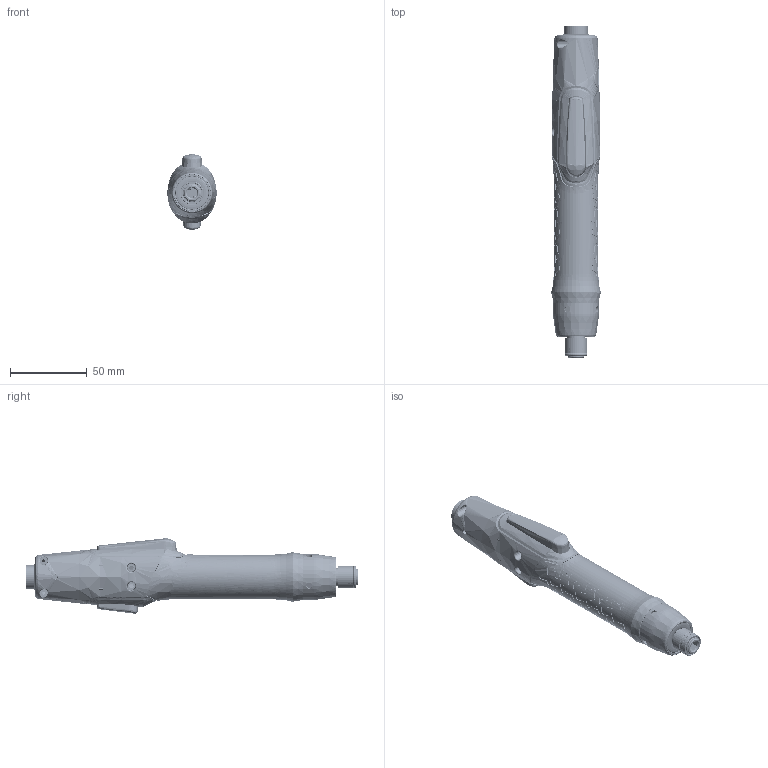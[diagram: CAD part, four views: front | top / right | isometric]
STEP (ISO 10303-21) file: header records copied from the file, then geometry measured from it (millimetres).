
FILE_DESCRIPTION (( 'STEP AP214' ), '1' );
FILE_NAME ('IR-AIS-S(L)-20241029.STEP', '2025-04-10T00:48:24', ( '' ), ( '' ), 'SwSTEP 2.0', 'SolidWorks 2023', '' );
FILE_SCHEMA (( 'AUTOMOTIVE_DESIGN' ));
Length unit declared in the file: millimetre
Products named in the file (40): 小型杠杆式LED模块; _22电机_与量能重载型减速机适配：轴长10，不带扁位; AIS-S(L)-20241026版; R-Rubber Cover-20241029; Copper sleever-20241029; P6P017-Forward Button-20241029; L-002 灯座_LA-002 内壳; P7L392-LOGO-20241029; L-003 外壳A_L-003 外壳A; PCBA-7-V2; KM-3P插头-20240914; Hall Sensor Switch -V4; P6P018-Reverse Button-20241029; X3-013 轴帽S_X3-013 轴帽X; circlips for holes--type a gb_GB_CONNECTING_PIECE_RING_RRH 21; 接地铜片AA_22; X3低阻抗电刷-20240910版; P6R007-Fixed Ring-20241029; P6Z066-IR-Upper Housing_L-20241029; 钢珠2.9_3.1; hexagon socket head cap screws gb_GB_FASTENER_SCREWS_HSHCS M2.5X6-N; LED灯灯盘3.0版-20241014; P22减速机_适配鸣志电机-速比1_12.76-1_16-长度26.4; AIS-S(L)-20241026版(2); N3-002 连接轴_六边型17.6-20241011; P22减速机+_22电机组件_量能重载速比22.1-长度33+鸣志电机; DS-002 J法兰L_DS-002 J法兰L; 轴帽弹簧0.8X11.7X10_0.8x11.7x5x3x15; LED灯盘组件-20241014; 12X1轴用压扁钢丝挡圈_12x1; Magnet; N3连接轴组件-20240922_电流枪-减速机; P6Z066-IR-Lower Housing_R-20241029; L-001 灯罩_2; L-Rubber Cover-20241029; IR-AIS-S(L)-20241029; cross recessed small pan head screws gb_GB_CROSS_SCREWS_TYPE3 M2X4-4-N; N3-003 护套-20241017; 6801 ZZ_6801ZZ; C环1X11.2_11.6
Assembly tree (51 placements, depth 6):
  IR-AIS-S(L)-20241029
    AIS-S(L)-20241026版
      AIS-S(L)-20241026版(2)
        P22减速机+_22电机组件_量能重载速比22.1-长度33+鸣志电机
          P22减速机_适配鸣志电机-速比1_12.76-1_16-长度26.4
          _22电机_与量能重载型减速机适配：轴长10，不带扁位
        N3连接轴组件-20240922_电流枪-减速机
          N3-002 连接轴_六边型17.6-20241011
          6801 ZZ_6801ZZ  x2
          C环1X11.2_11.6
          钢珠2.9_3.1  x2
          轴帽弹簧0.8X11.7X10_0.8x11.7x5x3x15
          X3-013 轴帽S_X3-013 轴帽X
          12X1轴用压扁钢丝挡圈_12x1
        小型杠杆式LED模块
          LED灯盘组件-20241014
            KM-3P插头-20240914
            LED灯灯盘3.0版-20241014
          L-002 灯座_LA-002 内壳
          L-001 灯罩_2
          L-003 外壳A_L-003 外壳A
        DS-002 J法兰L_DS-002 J法兰L
        hexagon socket head cap screws gb_GB_FASTENER_SCREWS_HSHCS M2.5X6-N  x6
        circlips for holes--type a gb_GB_CONNECTING_PIECE_RING_RRH 21
        N3-003 护套-20241017
        X3低阻抗电刷-20240910版  x2
        接地铜片AA_22
        cross recessed small pan head screws gb_GB_CROSS_SCREWS_TYPE3 M2X4-4-N
    P6R007-Fixed Ring-20241029
    P6Z066-IR-Lower Housing_R-20241029
    P7L392-LOGO-20241029
    P6P018-Reverse Button-20241029
    P6P017-Forward Button-20241029
    P6Z066-IR-Upper Housing_L-20241029
    Copper sleever-20241029  x4
    R-Rubber Cover-20241029
    L-Rubber Cover-20241029
    Hall Sensor Switch -V4
    PCBA-7-V2
    Magnet  x2
Bounding box: 32.25 x 216.28 x 49.18 mm (x, y, z)
Volume: 112447.4 mm3; surface area: 107750.6 mm2
Topology: 60 solids, 61 shells, 6825 faces, 18654 edges, 12124 vertices
Faces by surface type: cylinder 2498, bspline 2042, plane 1625, cone 343, sphere 207, torus 110
Full cylindrical faces by diameter (mm): 0.4 x2, 1 x4, 1.55 x2, 1.6 x7, 1.9 x2, 2 x19, 2.05 x12, 2.1 x1, 2.2 x1, 2.5 x11, 2.9 x12, 3 x1, 3.2 x2, 3.4 x1, 3.5 x9, 4 x15, 4.1 x3, 4.2 x4, 4.5 x6, 5.9 x2, 6 x2, 7 x1, 7.4 x2, 8 x1, 10 x5, 10.8 x2, 10.85 x2, 11 x1, 11.5 x1, 12 x4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
Entity records: 356246 total; most frequent: CARTESIAN_POINT 188911, ORIENTED_EDGE 35170, DIRECTION 18937, EDGE_CURVE 17585, VERTEX_POINT 11674, B_SPLINE_CURVE_WITH_KNOTS 9780, EDGE_LOOP 7751, AXIS2_PLACEMENT_3D 6926
